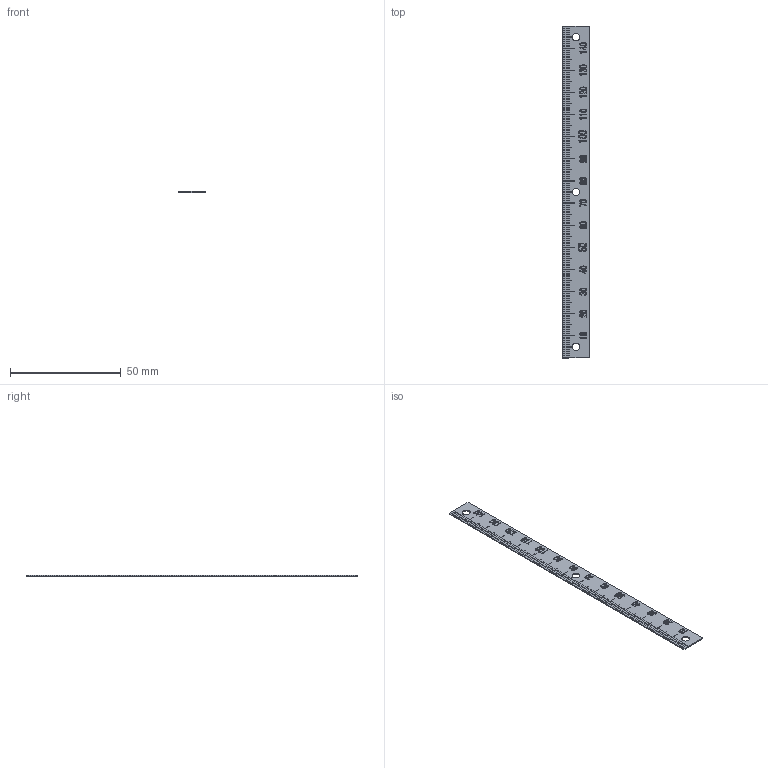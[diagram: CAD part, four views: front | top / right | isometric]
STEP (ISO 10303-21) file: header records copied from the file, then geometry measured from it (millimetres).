
FILE_DESCRIPTION (( 'STEP AP203' ), '1' );
FILE_NAME ('es2n-u150r.STEP', '2023-06-15T06:55:20', ( '' ), ( '' ), 'SwSTEP 2.0', 'SolidWorks 2021', '' );
FILE_SCHEMA (( 'CONFIG_CONTROL_DESIGN' ));
Length unit declared in the file: millimetre
Products named in the file (1): es2n-u150r
Bounding box: 12 x 150 x 0.5 mm (x, y, z)
Volume: 884.4 mm3; surface area: 3734.9 mm2
Topology: 1 solids, 1 shells, 1179 faces, 3369 edges, 2246 vertices
Faces by surface type: plane 762, bspline 411, cylinder 6
Entity records: 54194 total; most frequent: CARTESIAN_POINT 26142, ORIENTED_EDGE 6738, DIRECTION 4097, EDGE_CURVE 3369, LINE 2535, VECTOR 2535, VERTEX_POINT 2246, EDGE_LOOP 1239
